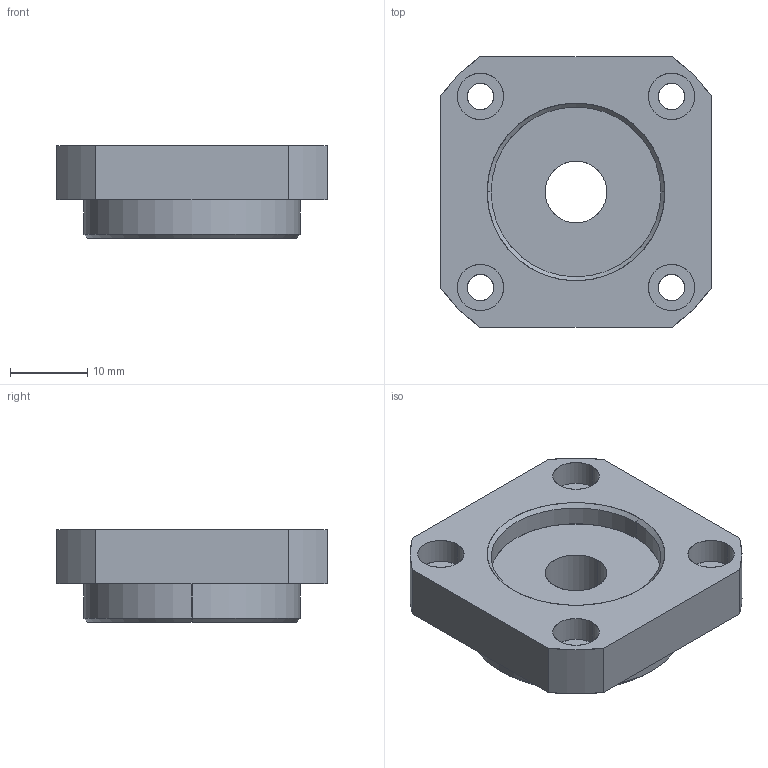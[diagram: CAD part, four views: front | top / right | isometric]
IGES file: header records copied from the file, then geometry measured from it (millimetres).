
Start section: SolidWorks IGES file using analytic representation for surfaces
Global section: file name: E:\同创达图纸\产品示意图\3D选型图\支撑座\FF系列\FF10.IGS; native system: SolidWorks 2012; preprocessor: SolidWorks 2012; author: gao; date: 130702.203606; units: millimetre
Bounding box: 35 x 35 x 12 mm (x, y, z)
Surface area: 4388.6 mm2 (no closed solid volume)
Topology: 0 solids, 0 shells, 47 faces, 976 edges, 976 vertices
Faces by surface type: revolution 34, bspline 13
